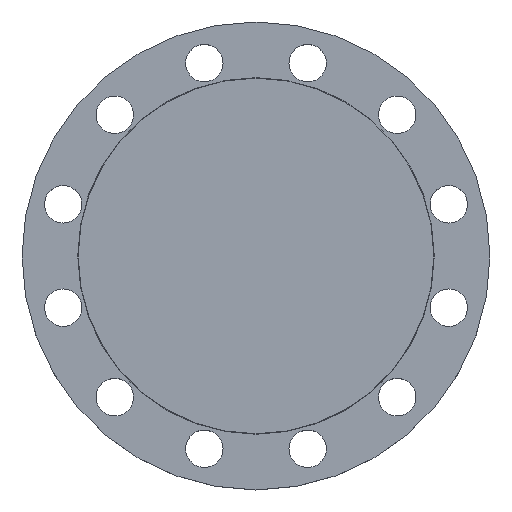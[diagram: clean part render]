
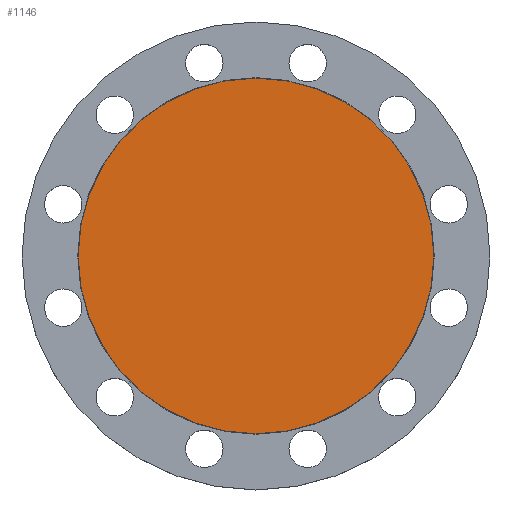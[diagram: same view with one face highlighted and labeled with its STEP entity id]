
A CAD part, top view. The second image highlights one B-rep face of the part: STEP entity #1146.
In plain terms, the highlighted planar face has unit normal (0, 0, 1).
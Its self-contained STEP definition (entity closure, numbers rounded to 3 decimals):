
#159 = DIRECTION ( 'NONE',  ( 1., 0., 0. ) ) ;
#160 = DIRECTION ( 'NONE',  ( 0., 0., 1. ) ) ;
#162 = CARTESIAN_POINT ( 'NONE',  ( 0., 0., 0. ) ) ;
#163 = PLANE ( 'NONE',  #792 ) ;
#164 = FACE_OUTER_BOUND ( 'NONE', #1082, .T. ) ;
#310 = CARTESIAN_POINT ( 'NONE',  ( -142.5, 0., 0. ) ) ;
#358 = CARTESIAN_POINT ( 'NONE',  ( 142.5, 0., 0. ) ) ;
#368 = CIRCLE ( 'NONE', #654, 142.5 ) ;
#568 = DIRECTION ( 'NONE',  ( -1., 0., 0. ) ) ;
#570 = DIRECTION ( 'NONE',  ( 0., 0., -1. ) ) ;
#571 = CARTESIAN_POINT ( 'NONE',  ( 0., 0., 0. ) ) ;
#572 = DIRECTION ( 'NONE',  ( -1., 0., 0. ) ) ;
#573 = DIRECTION ( 'NONE',  ( 0., 0., -1. ) ) ;
#574 = CARTESIAN_POINT ( 'NONE',  ( 0., 0., 0. ) ) ;
#654 = AXIS2_PLACEMENT_3D ( 'NONE', #571, #570, #568 ) ;
#771 = ORIENTED_EDGE ( 'NONE', *, *, #787, .F. ) ;
#772 = ORIENTED_EDGE ( 'NONE', *, *, #797, .F. ) ;
#787 = EDGE_CURVE ( 'NONE', #1050, #986, #889, .T. ) ;
#792 = AXIS2_PLACEMENT_3D ( 'NONE', #162, #160, #159 ) ;
#797 = EDGE_CURVE ( 'NONE', #986, #1050, #368, .T. ) ;
#889 = CIRCLE ( 'NONE', #1103, 142.5 ) ;
#986 = VERTEX_POINT ( 'NONE', #358 ) ;
#1050 = VERTEX_POINT ( 'NONE', #310 ) ;
#1082 = EDGE_LOOP ( 'NONE', ( #771, #772 ) ) ;
#1103 = AXIS2_PLACEMENT_3D ( 'NONE', #574, #573, #572 ) ;
#1146 = ADVANCED_FACE ( 'NONE', ( #164 ), #163, .T. ) ;
